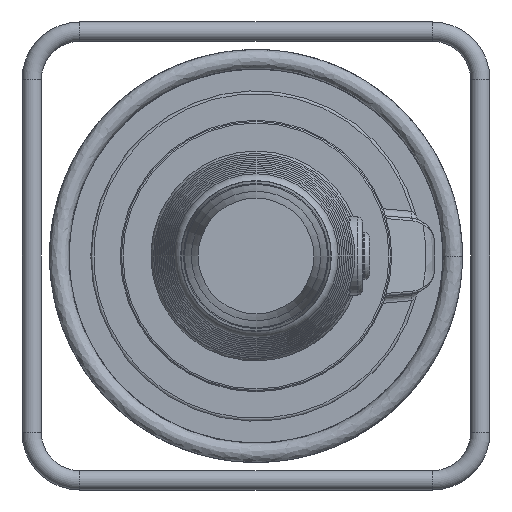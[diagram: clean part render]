
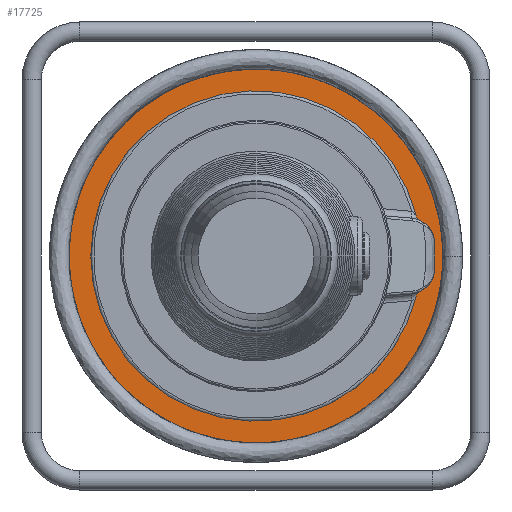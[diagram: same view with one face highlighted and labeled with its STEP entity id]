
A CAD part, left-side view. The second image highlights one B-rep face of the part: STEP entity #17725.
In plain terms, the highlighted planar face has unit normal (-1, 0, 0).
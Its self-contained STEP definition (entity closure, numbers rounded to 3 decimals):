
#129=FACE_BOUND('',#5671,.T.);
#833=PLANE('',#18746);
#4600=FACE_OUTER_BOUND('',#5670,.T.);
#5670=EDGE_LOOP('',(#15261));
#5671=EDGE_LOOP('',(#15262,#15263,#15264,#15265,#15266,#15267,#15268,#15269));
#6294=CIRCLE('',#18723,136.5);
#6296=CIRCLE('',#18747,2.);
#6297=CIRCLE('',#18748,19.);
#6298=CIRCLE('',#18749,5.);
#6299=CIRCLE('',#18750,120.);
#6300=CIRCLE('',#18751,5.);
#6301=CIRCLE('',#18752,19.);
#6302=CIRCLE('',#18753,2.);
#6303=CIRCLE('',#18754,130.);
#8092=VERTEX_POINT('',#42852);
#8094=VERTEX_POINT('',#42879);
#8095=VERTEX_POINT('',#42880);
#8096=VERTEX_POINT('',#42882);
#8097=VERTEX_POINT('',#42884);
#8098=VERTEX_POINT('',#42886);
#8099=VERTEX_POINT('',#42888);
#8100=VERTEX_POINT('',#42890);
#8101=VERTEX_POINT('',#42892);
#10521=EDGE_CURVE('',#8092,#8092,#6294,.T.);
#10524=EDGE_CURVE('',#8094,#8095,#6296,.T.);
#10525=EDGE_CURVE('',#8096,#8094,#6297,.T.);
#10526=EDGE_CURVE('',#8097,#8096,#6298,.T.);
#10527=EDGE_CURVE('',#8098,#8097,#6299,.T.);
#10528=EDGE_CURVE('',#8099,#8098,#6300,.T.);
#10529=EDGE_CURVE('',#8100,#8099,#6301,.T.);
#10530=EDGE_CURVE('',#8101,#8100,#6302,.T.);
#10531=EDGE_CURVE('',#8101,#8095,#6303,.T.);
#15261=ORIENTED_EDGE('',*,*,#10521,.T.);
#15262=ORIENTED_EDGE('',*,*,#10524,.F.);
#15263=ORIENTED_EDGE('',*,*,#10525,.F.);
#15264=ORIENTED_EDGE('',*,*,#10526,.F.);
#15265=ORIENTED_EDGE('',*,*,#10527,.F.);
#15266=ORIENTED_EDGE('',*,*,#10528,.F.);
#15267=ORIENTED_EDGE('',*,*,#10529,.F.);
#15268=ORIENTED_EDGE('',*,*,#10530,.F.);
#15269=ORIENTED_EDGE('',*,*,#10531,.T.);
#17725=ADVANCED_FACE('',(#4600,#129),#833,.T.);
#18723=AXIS2_PLACEMENT_3D('',#42853,#21730,#21731);
#18746=AXIS2_PLACEMENT_3D('',#42878,#21777,#21778);
#18747=AXIS2_PLACEMENT_3D('',#42881,#21779,#21780);
#18748=AXIS2_PLACEMENT_3D('',#42883,#21781,#21782);
#18749=AXIS2_PLACEMENT_3D('',#42885,#21783,#21784);
#18750=AXIS2_PLACEMENT_3D('',#42887,#21785,#21786);
#18751=AXIS2_PLACEMENT_3D('',#42889,#21787,#21788);
#18752=AXIS2_PLACEMENT_3D('',#42891,#21789,#21790);
#18753=AXIS2_PLACEMENT_3D('',#42893,#21791,#21792);
#18754=AXIS2_PLACEMENT_3D('',#42894,#21793,#21794);
#21730=DIRECTION('center_axis',(-1.,0.,0.));
#21731=DIRECTION('ref_axis',(0.,-0.207,0.978));
#21777=DIRECTION('center_axis',(-1.,0.,0.));
#21778=DIRECTION('ref_axis',(0.,0.207,-0.978));
#21779=DIRECTION('center_axis',(-1.,0.,0.));
#21780=DIRECTION('ref_axis',(0.,-0.981,-0.196));
#21781=DIRECTION('center_axis',(-1.,0.,0.));
#21782=DIRECTION('ref_axis',(0.,-0.737,-0.676));
#21783=DIRECTION('center_axis',(1.,0.,0.));
#21784=DIRECTION('ref_axis',(0.,0.773,0.634));
#21785=DIRECTION('center_axis',(-1.,0.,0.));
#21786=DIRECTION('ref_axis',(0.,1.,0.));
#21787=DIRECTION('center_axis',(1.,0.,0.));
#21788=DIRECTION('ref_axis',(0.,0.773,-0.634));
#21789=DIRECTION('center_axis',(-1.,0.,0.));
#21790=DIRECTION('ref_axis',(0.,-0.737,0.676));
#21791=DIRECTION('center_axis',(-1.,0.,0.));
#21792=DIRECTION('ref_axis',(0.,-0.981,0.196));
#21793=DIRECTION('center_axis',(1.,0.,0.));
#21794=DIRECTION('ref_axis',(0.,-1.,0.));
#42852=CARTESIAN_POINT('',(-4.471,-63.793,0.));
#42853=CARTESIAN_POINT('Origin',(-4.471,72.707,0.));
#42878=CARTESIAN_POINT('Origin',(-4.471,50.207,-4.769));
#42879=CARTESIAN_POINT('',(-4.471,-56.501,-14.016));
#42880=CARTESIAN_POINT('',(-4.471,-56.574,-13.655));
#42881=CARTESIAN_POINT('Origin',(-4.471,-54.585,-13.445));
#42882=CARTESIAN_POINT('',(-4.471,-46.429,-25.759));
#42883=CARTESIAN_POINT('Origin',(-4.471,-38.293,-8.59));
#42884=CARTESIAN_POINT('',(-4.471,-43.719,-29.067));
#42885=CARTESIAN_POINT('Origin',(-4.471,-48.57,-30.278));
#42886=CARTESIAN_POINT('',(-4.471,-43.719,29.067));
#42887=CARTESIAN_POINT('Origin',(-4.471,72.707,0.));
#42888=CARTESIAN_POINT('',(-4.471,-46.429,25.759));
#42889=CARTESIAN_POINT('Origin',(-4.471,-48.57,30.278));
#42890=CARTESIAN_POINT('',(-4.471,-56.501,14.016));
#42891=CARTESIAN_POINT('Origin',(-4.471,-38.293,8.59));
#42892=CARTESIAN_POINT('',(-4.471,-56.574,13.655));
#42893=CARTESIAN_POINT('Origin',(-4.471,-54.585,13.445));
#42894=CARTESIAN_POINT('Origin',(-4.471,72.707,0.));
